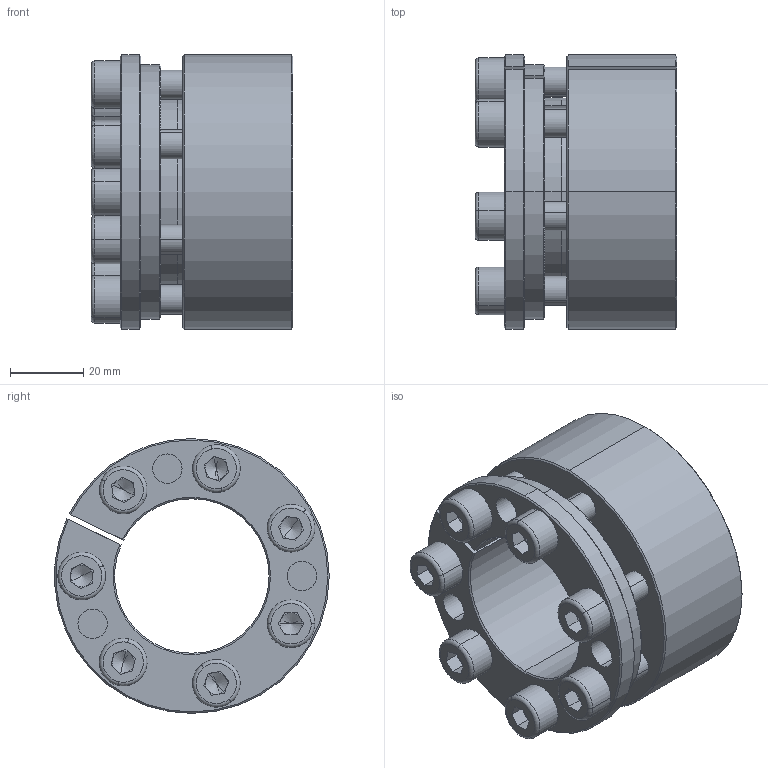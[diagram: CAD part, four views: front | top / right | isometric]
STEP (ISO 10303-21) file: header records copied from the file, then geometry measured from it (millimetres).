
FILE_DESCRIPTION (( 'STEP AP214' ), '1' );
FILE_NAME ('H5×°ÅäÌå42-75.STEP', '2022-07-26T02:18:09', ( '' ), ( '' ), 'SwSTEP 2.0', 'SolidWorks 2022', '' );
FILE_SCHEMA (( 'AUTOMOTIVE_DESIGN' ));
Length unit declared in the file: millimetre
Products named in the file (1): H5蚾饜极42-75
Bounding box: 55 x 74.81 x 74.9 mm (x, y, z)
Volume: 122059.3 mm3; surface area: 39259.7 mm2
Topology: 1 solids, 1 shells, 268 faces, 671 edges, 412 vertices
Faces by surface type: plane 113, cylinder 77, cone 64, torus 14
Entity records: 8034 total; most frequent: DIRECTION 1490, CARTESIAN_POINT 1410, ORIENTED_EDGE 1314, EDGE_CURVE 657, AXIS2_PLACEMENT_3D 588, VERTEX_POINT 412, CIRCLE 319, VECTOR 314
